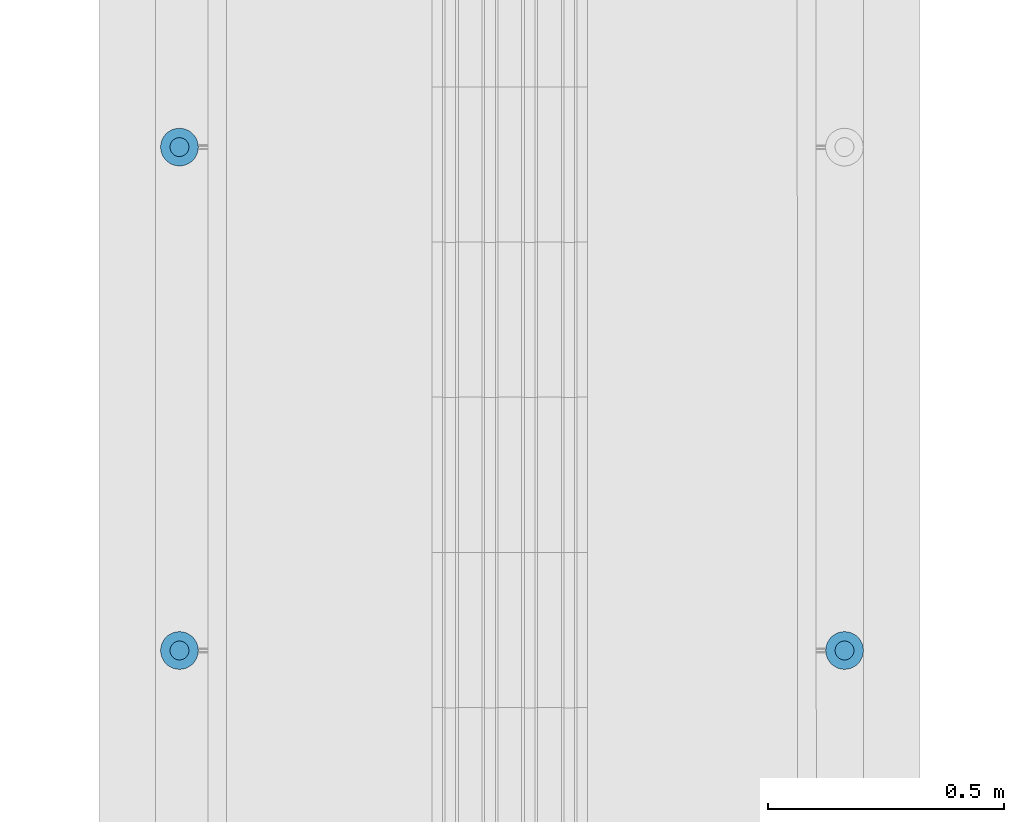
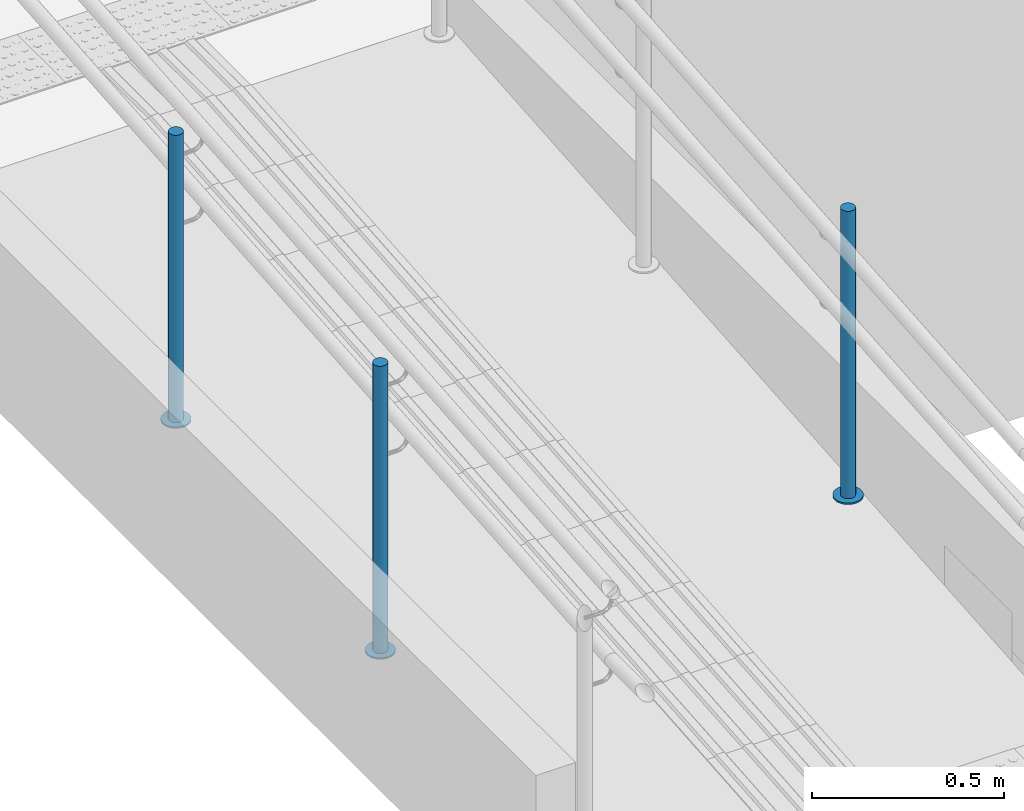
# One storey, part 102 of 237: 6 building element parts, 2 elements without a shape of their own.
"""IFC2X3 building model written with IfcOpenShell, lengths in millimetres."""

from ifc_helpers import new_model, entity, si_unit, converted_unit, derived_unit, money_unit, direction, frame, origin_with_axes, place, context, subcontext, project, spatial, faceted_brep, material, type_object, element, aggregate, save


model = new_model("IFC2X3")

# Units and contexts
model_context = context("Model", 3, precision=0.01, world=origin_with_axes(), true_north=direction((0.0, 1.0)))
body_context = subcontext(model_context, "Body", "Model", "MODEL_VIEW")
ifc_project = project(units=[si_unit("LENGTHUNIT", "METRE", prefix="MILLI"), si_unit("AREAUNIT", "SQUARE_METRE"), si_unit("VOLUMEUNIT", "CUBIC_METRE"), converted_unit("PLANEANGLEUNIT", "DEGREE", entity("IfcPlaneAngleMeasure", 0.0174532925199), si_unit("PLANEANGLEUNIT", "RADIAN"), dimensions=[0, 0, 0, 0, 0, 0, 0]), money_unit("USD"), converted_unit("TIMEUNIT", "Year", entity("IfcTimeMeasure", 31556926.0), si_unit("TIMEUNIT", "SECOND"), dimensions=[0, 0, 1, 0, 0, 0, 0]), si_unit("MASSUNIT", "GRAM", prefix="KILO"), si_unit("THERMODYNAMICTEMPERATUREUNIT", "DEGREE_CELSIUS"), si_unit("LUMINOUSINTENSITYUNIT", "LUMEN"), si_unit("ENERGYUNIT", "JOULE", prefix="MEGA"), derived_unit("THERMALCONDUCTANCEUNIT", [(si_unit("POWERUNIT", "WATT"), 1), (si_unit("LENGTHUNIT", "METRE"), -1), (si_unit("THERMODYNAMICTEMPERATUREUNIT", "KELVIN"), -1)]), derived_unit("SPECIFICHEATCAPACITYUNIT", [(si_unit("ENERGYUNIT", "JOULE"), 1), (si_unit("MASSUNIT", "GRAM", prefix="KILO"), -1), (si_unit("THERMODYNAMICTEMPERATUREUNIT", "KELVIN"), -1)]), derived_unit("MASSDENSITYUNIT", [(si_unit("MASSUNIT", "GRAM", prefix="KILO"), 1), (si_unit("VOLUMEUNIT", "CUBIC_METRE"), -1)])], contexts=[model_context])

# Site, building, storey
site_placement = place(None, origin_with_axes())
site = spatial("IfcSite", under=ifc_project, at=site_placement, Name="Local", CompositionType="ELEMENT")
building_placement = place(site_placement, origin_with_axes())
building = spatial("IfcBuilding", under=site, at=building_placement, Name="Construção", CompositionType="ELEMENT")
storey_placement = place(building_placement, origin_with_axes())
storey = spatial("IfcBuildingStorey", under=building, at=storey_placement, Name="Pavimento Térreo", CompositionType="ELEMENT", Elevation=0.0)

# Railing, building element parts
railing_type = type_object("IfcRailingType", Name="Tipo de Guarda-Corpo", PredefinedType="NOTDEFINED")
railing_1_placement = place(storey_placement, frame((83396.7842051, 16008.4211936, -5267.74663192), z_axis=(0.0, 0.0, 1.0), x_axis=(-0.999999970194, -0.00024415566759, 0.0)))
railing_1 = element("IfcRailing", 1, at=railing_1_placement, inside=storey, type_object=railing_type, Name="Guarda-Corpo - 001", PredefinedType="NOTDEFINED")
ifc_material_1 = material(Name="Aço - Inoxidável")
building_element_part_1_placement = place(railing_1_placement, origin_with_axes())
building_element_part_1 = element("IfcBuildingElementPart", 2, at=building_element_part_1_placement, material=ifc_material_1, Name="Aço - Inoxidável", context=body_context, shape_type="Brep", body=[
    faceted_brep([(-20.0499704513, 1039.80828554, 186.038666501), (-19.7452775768, 1043.2811748, 186.038666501), (-19.7452775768, 1043.2811748, 1101.0386665), (-20.0499704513, 1039.80828554, 1101.0386665), (-20.0482745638, 1046.75421244, 186.038666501), (-20.9530952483, 1036.44106663, 186.038666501), (-22.427210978, 1033.28182931, 186.038666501), (-24.4275273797, 1030.42656542, 186.038666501), (-26.893265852, 1027.9620307, 186.038666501), (-29.749506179, 1025.9631088, 186.038666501), (-32.9094629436, 1024.49053594, 186.038666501), (-36.2771224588, 1023.5890555, 186.038666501), (-39.750160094, 1023.28605851, 186.038666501), (-43.2230493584, 1023.59075138, 186.038666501), (-46.5902682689, 1024.49387618, 186.038666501), (-49.7495055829, 1025.96799191, 186.038666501), (-52.6047694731, 1027.96830831, 186.038666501), (-55.0693041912, 1030.43404679, 186.038666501), (-57.0682260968, 1033.29028711, 186.038666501), (-58.5407989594, 1036.45024388, 186.038666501), (-59.4422793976, 1039.81790339, 186.038666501), (-59.7452763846, 1043.29094103, 186.038666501), (-59.4405835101, 1046.76383029, 186.038666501), (-58.5374587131, 1050.1310492, 186.038666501), (-57.0633429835, 1053.29028652, 186.038666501), (-55.0630265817, 1056.14555041, 186.038666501), (-52.5972881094, 1058.61008512, 186.038666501), (-49.7410477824, 1060.60900703, 186.038666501), (-46.5810910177, 1062.08157989, 186.038666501), (-43.2134315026, 1062.98306033, 186.038666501), (-39.7403938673, 1063.28605732, 186.038666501), (-36.267504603, 1062.98136444, 186.038666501), (-32.9002856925, 1062.07823965, 186.038666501), (-29.7410483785, 1060.60412392, 186.038666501), (-26.8857844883, 1058.60380751, 186.038666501), (-24.4212497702, 1056.13806904, 186.038666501), (-22.4223278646, 1053.28182872, 186.038666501), (-20.949755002, 1050.12187195, 186.038666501), (-20.0482745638, 1046.75421244, 1101.0386665), (-43.2230493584, 1023.59075138, 1101.0386665), (-39.750160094, 1023.28605851, 1101.0386665), (-36.2771224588, 1023.5890555, 1101.0386665), (-32.9094629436, 1024.49053594, 1101.0386665), (-29.749506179, 1025.9631088, 1101.0386665), (-26.893265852, 1027.9620307, 1101.0386665), (-24.4275273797, 1030.42656542, 1101.0386665), (-22.427210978, 1033.28182931, 1101.0386665), (-20.9530952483, 1036.44106663, 1101.0386665), (-20.949755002, 1050.12187195, 1101.0386665), (-22.4223278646, 1053.28182872, 1101.0386665), (-24.4212497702, 1056.13806904, 1101.0386665), (-26.8857844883, 1058.60380751, 1101.0386665), (-29.7410483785, 1060.60412392, 1101.0386665), (-32.9002856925, 1062.07823965, 1101.0386665), (-36.267504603, 1062.98136444, 1101.0386665), (-39.7403938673, 1063.28605732, 1101.0386665), (-43.2134315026, 1062.98306033, 1101.0386665), (-46.5810910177, 1062.08157989, 1101.0386665), (-49.7410477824, 1060.60900703, 1101.0386665), (-52.5972881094, 1058.61008512, 1101.0386665), (-55.0630265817, 1056.14555041, 1101.0386665), (-57.0633429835, 1053.29028652, 1101.0386665), (-58.5374587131, 1050.1310492, 1101.0386665), (-59.4405835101, 1046.76383029, 1101.0386665), (-59.7452763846, 1043.29094103, 1101.0386665), (-59.4422793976, 1039.81790339, 1101.0386665), (-58.5407989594, 1036.45024388, 1101.0386665), (-57.0682260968, 1033.29028711, 1101.0386665), (-55.0693041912, 1030.43404679, 1101.0386665), (-52.6047694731, 1027.96830831, 1101.0386665), (-49.7495055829, 1025.96799191, 1101.0386665), (-46.5902682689, 1024.49387618, 1101.0386665)], [[[0, 1, 2, 3]], [[4, 1, 0, 5, 6, 7, 8, 9, 10, 11, 12, 13, 14, 15, 16, 17, 18, 19, 20, 21, 22, 23, 24, 25, 26, 27, 28, 29, 30, 31, 32, 33, 34, 35, 36, 37]], [[1, 4, 38, 2]], [[39, 40, 41, 42, 43, 44, 45, 46, 47, 3, 2, 38, 48, 49, 50, 51, 52, 53, 54, 55, 56, 57, 58, 59, 60, 61, 62, 63, 64, 65, 66, 67, 68, 69, 70, 71]], [[5, 0, 3, 47]], [[6, 5, 47, 46]], [[7, 6, 46, 45]], [[8, 7, 45, 44]], [[9, 8, 44, 43]], [[10, 9, 43, 42]], [[11, 10, 42, 41]], [[12, 11, 41, 40]], [[13, 12, 40, 39]], [[14, 13, 39, 71]], [[15, 14, 71, 70]], [[16, 15, 70, 69]], [[17, 16, 69, 68]], [[18, 17, 68, 67]], [[19, 18, 67, 66]], [[20, 19, 66, 65]], [[21, 20, 65, 64]], [[22, 21, 64, 63]], [[23, 22, 63, 62]], [[24, 23, 62, 61]], [[25, 24, 61, 60]], [[26, 25, 60, 59]], [[27, 26, 59, 58]], [[28, 27, 58, 57]], [[29, 28, 57, 56]], [[30, 29, 56, 55]], [[31, 30, 55, 54]], [[32, 31, 54, 53]], [[33, 32, 53, 52]], [[34, 33, 52, 51]], [[35, 34, 51, 50]], [[36, 35, 50, 49]], [[37, 36, 49, 48]], [[4, 37, 48, 38]]]),
])
ifc_material_2 = material(Name="Alumínio")
building_element_part_2_placement = place(railing_1_placement, origin_with_axes())
building_element_part_2 = element("IfcBuildingElementPart", 3, at=building_element_part_2_placement, material=ifc_material_2, Name="Alumínio", context=body_context, shape_type="Brep", body=[
    faceted_brep([(-39.735510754, 1083.28605672, 181.038666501), (-46.6815860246, 1082.68006275, 181.038666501), (-46.6815860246, 1082.68006275, 186.038666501), (-39.735510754, 1083.28605672, 186.038666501), (-32.7897322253, 1082.67667097, 181.038666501), (-26.0552944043, 1080.87042138, 181.038666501), (-19.7368197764, 1077.92218992, 181.038666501), (-14.0262919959, 1073.92155712, 181.038666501), (-9.09722255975, 1068.99008017, 181.038666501), (-5.09937874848, 1063.27759952, 181.038666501), (-2.15423302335, 1056.95768599, 181.038666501), (-0.351272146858, 1050.22236696, 181.038666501), (0.254721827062, 1043.27629169, 181.038666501), (-0.354663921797, 1036.33051316, 181.038666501), (-2.16091351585, 1029.59607534, 181.038666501), (-5.10914497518, 1023.27760071, 181.038666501), (-9.10977777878, 1017.56707293, 181.038666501), (-14.0412547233, 1012.63800349, 181.038666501), (-19.7537353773, 1008.64015968, 181.038666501), (-26.0736489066, 1005.69501396, 181.038666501), (-32.8089679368, 1003.89205308, 181.038666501), (-39.7550432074, 1003.28605911, 181.038666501), (-46.7008217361, 1003.89544485, 181.038666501), (-53.4352595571, 1005.70169445, 181.038666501), (-59.753734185, 1008.64992591, 181.038666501), (-65.4642619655, 1012.65055871, 181.038666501), (-70.3933314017, 1017.58203566, 181.038666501), (-74.3911752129, 1023.29451631, 181.038666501), (-77.336320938, 1029.61442984, 181.038666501), (-79.1392818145, 1036.34974887, 181.038666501), (-79.7452757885, 1043.29582414, 181.038666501), (-79.1358900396, 1050.24160267, 181.038666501), (-77.3296404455, 1056.97604049, 181.038666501), (-74.3814089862, 1063.29451512, 181.038666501), (-70.3807761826, 1069.0050429, 181.038666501), (-65.4492992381, 1073.93411233, 181.038666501), (-59.7368185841, 1077.93195615, 181.038666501), (-53.4169050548, 1080.87710187, 181.038666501), (-53.4169050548, 1080.87710187, 186.038666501), (-59.7368185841, 1077.93195615, 186.038666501), (-65.4492992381, 1073.93411233, 186.038666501), (-70.3807761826, 1069.0050429, 186.038666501), (-74.3814089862, 1063.29451512, 186.038666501), (-77.3296404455, 1056.97604049, 186.038666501), (-79.1358900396, 1050.24160267, 186.038666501), (-79.7452757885, 1043.29582414, 186.038666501), (-79.1392818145, 1036.34974887, 186.038666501), (-77.336320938, 1029.61442984, 186.038666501), (-74.3911752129, 1023.29451631, 186.038666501), (-70.3933314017, 1017.58203566, 186.038666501), (-65.4642619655, 1012.65055871, 186.038666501), (-59.753734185, 1008.64992591, 186.038666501), (-53.4352595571, 1005.70169445, 186.038666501), (-46.7008217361, 1003.89544485, 186.038666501), (-39.7550432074, 1003.28605911, 186.038666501), (-32.8089679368, 1003.89205308, 186.038666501), (-26.0736489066, 1005.69501396, 186.038666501), (-19.7537353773, 1008.64015968, 186.038666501), (-14.0412547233, 1012.63800349, 186.038666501), (-9.10977777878, 1017.56707293, 186.038666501), (-5.10914497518, 1023.27760071, 186.038666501), (-2.16091351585, 1029.59607534, 186.038666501), (-0.354663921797, 1036.33051316, 186.038666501), (0.254721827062, 1043.27629169, 186.038666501), (-0.351272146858, 1050.22236696, 186.038666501), (-2.15423302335, 1056.95768599, 186.038666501), (-5.09937874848, 1063.27759952, 186.038666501), (-9.09722255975, 1068.99008017, 186.038666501), (-14.0262919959, 1073.92155712, 186.038666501), (-19.7368197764, 1077.92218992, 186.038666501), (-26.0552944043, 1080.87042138, 186.038666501), (-32.7897322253, 1082.67667097, 186.038666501)], [[[0, 1, 2, 3]], [[0, 4, 5, 6, 7, 8, 9, 10, 11, 12, 13, 14, 15, 16, 17, 18, 19, 20, 21, 22, 23, 24, 25, 26, 27, 28, 29, 30, 31, 32, 33, 34, 35, 36, 37, 1]], [[1, 37, 38, 2]], [[3, 2, 38, 39, 40, 41, 42, 43, 44, 45, 46, 47, 48, 49, 50, 51, 52, 53, 54, 55, 56, 57, 58, 59, 60, 61, 62, 63, 64, 65, 66, 67, 68, 69, 70, 71]], [[4, 0, 3, 71]], [[5, 4, 71, 70]], [[6, 5, 70, 69]], [[7, 6, 69, 68]], [[8, 7, 68, 67]], [[9, 8, 67, 66]], [[10, 9, 66, 65]], [[11, 10, 65, 64]], [[12, 11, 64, 63]], [[13, 12, 63, 62]], [[14, 13, 62, 61]], [[15, 14, 61, 60]], [[16, 15, 60, 59]], [[17, 16, 59, 58]], [[18, 17, 58, 57]], [[19, 18, 57, 56]], [[20, 19, 56, 55]], [[21, 20, 55, 54]], [[22, 21, 54, 53]], [[23, 22, 53, 52]], [[24, 23, 52, 51]], [[25, 24, 51, 50]], [[26, 25, 50, 49]], [[27, 26, 49, 48]], [[28, 27, 48, 47]], [[29, 28, 47, 46]], [[30, 29, 46, 45]], [[31, 30, 45, 44]], [[32, 31, 44, 43]], [[33, 32, 43, 42]], [[34, 33, 42, 41]], [[35, 34, 41, 40]], [[36, 35, 40, 39]], [[37, 36, 39, 38]]]),
])
building_element_part_3_placement = place(railing_1_placement, origin_with_axes())
building_element_part_3 = element("IfcBuildingElementPart", 4, at=building_element_part_3_placement, material=ifc_material_1, Name="Aço - Inoxidável", context=body_context, shape_type="Brep", body=[
    faceted_brep([(-19.7895377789, 2106.47475746, 97.1853334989), (-19.4848449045, 2109.94764673, 97.1853334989), (-19.4848449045, 2109.94764673, 1012.1853335), (-19.7895377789, 2106.47475746, 1012.1853335), (-19.7878418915, 2113.42068436, 97.1853334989), (-20.692662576, 2103.10753855, 97.1853334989), (-22.1667783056, 2099.94830124, 97.1853334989), (-24.1670947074, 2097.09303735, 97.1853334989), (-26.6328331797, 2094.62850263, 97.1853334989), (-29.4890735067, 2092.62958073, 97.1853334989), (-32.6490302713, 2091.15700786, 97.1853334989), (-36.0166897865, 2090.25552743, 97.1853334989), (-39.4897274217, 2089.95253044, 97.1853334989), (-42.9626166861, 2090.25722331, 97.1853334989), (-46.3298355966, 2091.16034811, 97.1853334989), (-49.4890729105, 2092.63446384, 97.1853334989), (-52.3443368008, 2094.63478024, 97.1853334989), (-54.8088715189, 2097.10051871, 97.1853334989), (-56.8077934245, 2099.95675904, 97.1853334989), (-58.2803662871, 2103.11671581, 97.1853334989), (-59.1818467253, 2106.48437532, 97.1853334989), (-59.4848437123, 2109.95741296, 97.1853334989), (-59.1801508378, 2113.43030222, 97.1853334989), (-58.2770260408, 2116.79752113, 97.1853334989), (-56.8029103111, 2119.95675844, 97.1853334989), (-54.8025939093, 2122.81202234, 97.1853334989), (-52.3368554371, 2125.27655705, 97.1853334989), (-49.4806151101, 2127.27547896, 97.1853334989), (-46.3206583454, 2128.74805182, 97.1853334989), (-42.9529988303, 2129.64953226, 97.1853334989), (-39.479961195, 2129.95252925, 97.1853334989), (-36.0070719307, 2129.64783637, 97.1853334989), (-32.6398530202, 2128.74471158, 97.1853334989), (-29.4806157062, 2127.27059585, 97.1853334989), (-26.625351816, 2125.27027944, 97.1853334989), (-24.1608170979, 2122.80454097, 97.1853334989), (-22.1618951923, 2119.94830064, 97.1853334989), (-20.6893223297, 2116.78834388, 97.1853334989), (-19.7878418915, 2113.42068436, 1012.1853335), (-42.9626166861, 2090.25722331, 1012.1853335), (-39.4897274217, 2089.95253044, 1012.1853335), (-36.0166897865, 2090.25552743, 1012.1853335), (-32.6490302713, 2091.15700786, 1012.1853335), (-29.4890735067, 2092.62958073, 1012.1853335), (-26.6328331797, 2094.62850263, 1012.1853335), (-24.1670947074, 2097.09303735, 1012.1853335), (-22.1667783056, 2099.94830124, 1012.1853335), (-20.692662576, 2103.10753855, 1012.1853335), (-20.6893223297, 2116.78834388, 1012.1853335), (-22.1618951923, 2119.94830064, 1012.1853335), (-24.1608170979, 2122.80454097, 1012.1853335), (-26.625351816, 2125.27027944, 1012.1853335), (-29.4806157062, 2127.27059585, 1012.1853335), (-32.6398530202, 2128.74471158, 1012.1853335), (-36.0070719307, 2129.64783637, 1012.1853335), (-39.479961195, 2129.95252925, 1012.1853335), (-42.9529988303, 2129.64953226, 1012.1853335), (-46.3206583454, 2128.74805182, 1012.1853335), (-49.4806151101, 2127.27547896, 1012.1853335), (-52.3368554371, 2125.27655705, 1012.1853335), (-54.8025939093, 2122.81202234, 1012.1853335), (-56.8029103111, 2119.95675844, 1012.1853335), (-58.2770260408, 2116.79752113, 1012.1853335), (-59.1801508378, 2113.43030222, 1012.1853335), (-59.4848437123, 2109.95741296, 1012.1853335), (-59.1818467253, 2106.48437532, 1012.1853335), (-58.2803662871, 2103.11671581, 1012.1853335), (-56.8077934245, 2099.95675904, 1012.1853335), (-54.8088715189, 2097.10051871, 1012.1853335), (-52.3443368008, 2094.63478024, 1012.1853335), (-49.4890729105, 2092.63446384, 1012.1853335), (-46.3298355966, 2091.16034811, 1012.1853335)], [[[0, 1, 2, 3]], [[4, 1, 0, 5, 6, 7, 8, 9, 10, 11, 12, 13, 14, 15, 16, 17, 18, 19, 20, 21, 22, 23, 24, 25, 26, 27, 28, 29, 30, 31, 32, 33, 34, 35, 36, 37]], [[1, 4, 38, 2]], [[39, 40, 41, 42, 43, 44, 45, 46, 47, 3, 2, 38, 48, 49, 50, 51, 52, 53, 54, 55, 56, 57, 58, 59, 60, 61, 62, 63, 64, 65, 66, 67, 68, 69, 70, 71]], [[5, 0, 3, 47]], [[6, 5, 47, 46]], [[7, 6, 46, 45]], [[8, 7, 45, 44]], [[9, 8, 44, 43]], [[10, 9, 43, 42]], [[11, 10, 42, 41]], [[12, 11, 41, 40]], [[13, 12, 40, 39]], [[14, 13, 39, 71]], [[15, 14, 71, 70]], [[16, 15, 70, 69]], [[17, 16, 69, 68]], [[18, 17, 68, 67]], [[19, 18, 67, 66]], [[20, 19, 66, 65]], [[21, 20, 65, 64]], [[22, 21, 64, 63]], [[23, 22, 63, 62]], [[24, 23, 62, 61]], [[25, 24, 61, 60]], [[26, 25, 60, 59]], [[27, 26, 59, 58]], [[28, 27, 58, 57]], [[29, 28, 57, 56]], [[30, 29, 56, 55]], [[31, 30, 55, 54]], [[32, 31, 54, 53]], [[33, 32, 53, 52]], [[34, 33, 52, 51]], [[35, 34, 51, 50]], [[36, 35, 50, 49]], [[37, 36, 49, 48]], [[4, 37, 48, 38]]]),
])
building_element_part_4_placement = place(railing_1_placement, origin_with_axes())
building_element_part_4 = element("IfcBuildingElementPart", 5, at=building_element_part_4_placement, material=ifc_material_2, Name="Alumínio", context=body_context, shape_type="Brep", body=[
    faceted_brep([(-39.4750780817, 2149.95252865, 92.1853334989), (-46.4211533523, 2149.34653468, 92.1853334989), (-46.4211533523, 2149.34653468, 97.1853334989), (-39.4750780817, 2149.95252865, 97.1853334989), (-32.529299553, 2149.3431429, 92.1853334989), (-25.794861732, 2147.53689331, 92.1853334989), (-19.4763871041, 2144.58866185, 92.1853334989), (-13.7658593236, 2140.58802904, 92.1853334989), (-8.83678988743, 2135.6565521, 92.1853334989), (-4.83894607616, 2129.94407145, 92.1853334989), (-1.89380035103, 2123.62415792, 92.1853334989), (-0.0908394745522, 2116.88883889, 92.1853334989), (0.515154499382, 2109.94276362, 92.1853334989), (-0.0942312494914, 2102.99698509, 92.1853334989), (-1.90048084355, 2096.26254727, 92.1853334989), (-4.84871230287, 2089.94407264, 92.1853334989), (-8.84934510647, 2084.23354486, 92.1853334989), (-13.780822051, 2079.30447542, 92.1853334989), (-19.4933027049, 2075.30663161, 92.1853334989), (-25.8132162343, 2072.36148589, 92.1853334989), (-32.5485352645, 2070.55852501, 92.1853334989), (-39.4946105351, 2069.95253103, 92.1853334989), (-46.4403890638, 2070.56191678, 92.1853334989), (-53.1748268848, 2072.36816638, 92.1853334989), (-59.4933015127, 2075.31639784, 92.1853334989), (-65.2038292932, 2079.31703064, 92.1853334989), (-70.1328987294, 2084.24850759, 92.1853334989), (-74.1307425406, 2089.96098824, 92.1853334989), (-77.0758882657, 2096.28090177, 92.1853334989), (-78.8788491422, 2103.0162208, 92.1853334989), (-79.4848431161, 2109.96229607, 92.1853334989), (-78.8754573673, 2116.9080746, 92.1853334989), (-77.0692077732, 2123.64251242, 92.1853334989), (-74.1209763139, 2129.96098705, 92.1853334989), (-70.1203435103, 2135.67151483, 92.1853334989), (-65.1888665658, 2140.60058426, 92.1853334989), (-59.4763859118, 2144.59842807, 92.1853334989), (-53.1564723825, 2147.5435738, 92.1853334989), (-53.1564723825, 2147.5435738, 97.1853334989), (-59.4763859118, 2144.59842807, 97.1853334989), (-65.1888665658, 2140.60058426, 97.1853334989), (-70.1203435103, 2135.67151483, 97.1853334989), (-74.1209763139, 2129.96098705, 97.1853334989), (-77.0692077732, 2123.64251242, 97.1853334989), (-78.8754573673, 2116.9080746, 97.1853334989), (-79.4848431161, 2109.96229607, 97.1853334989), (-78.8788491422, 2103.0162208, 97.1853334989), (-77.0758882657, 2096.28090177, 97.1853334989), (-74.1307425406, 2089.96098824, 97.1853334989), (-70.1328987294, 2084.24850759, 97.1853334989), (-65.2038292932, 2079.31703064, 97.1853334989), (-59.4933015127, 2075.31639784, 97.1853334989), (-53.1748268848, 2072.36816638, 97.1853334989), (-46.4403890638, 2070.56191678, 97.1853334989), (-39.4946105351, 2069.95253103, 97.1853334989), (-32.5485352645, 2070.55852501, 97.1853334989), (-25.8132162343, 2072.36148589, 97.1853334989), (-19.4933027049, 2075.30663161, 97.1853334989), (-13.780822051, 2079.30447542, 97.1853334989), (-8.84934510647, 2084.23354486, 97.1853334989), (-4.84871230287, 2089.94407264, 97.1853334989), (-1.90048084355, 2096.26254727, 97.1853334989), (-0.0942312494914, 2102.99698509, 97.1853334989), (0.515154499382, 2109.94276362, 97.1853334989), (-0.0908394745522, 2116.88883889, 97.1853334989), (-1.89380035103, 2123.62415792, 97.1853334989), (-4.83894607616, 2129.94407145, 97.1853334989), (-8.83678988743, 2135.6565521, 97.1853334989), (-13.7658593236, 2140.58802904, 97.1853334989), (-19.4763871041, 2144.58866185, 97.1853334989), (-25.794861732, 2147.53689331, 97.1853334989), (-32.529299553, 2149.3431429, 97.1853334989)], [[[0, 1, 2, 3]], [[0, 4, 5, 6, 7, 8, 9, 10, 11, 12, 13, 14, 15, 16, 17, 18, 19, 20, 21, 22, 23, 24, 25, 26, 27, 28, 29, 30, 31, 32, 33, 34, 35, 36, 37, 1]], [[1, 37, 38, 2]], [[3, 2, 38, 39, 40, 41, 42, 43, 44, 45, 46, 47, 48, 49, 50, 51, 52, 53, 54, 55, 56, 57, 58, 59, 60, 61, 62, 63, 64, 65, 66, 67, 68, 69, 70, 71]], [[4, 0, 3, 71]], [[5, 4, 71, 70]], [[6, 5, 70, 69]], [[7, 6, 69, 68]], [[8, 7, 68, 67]], [[9, 8, 67, 66]], [[10, 9, 66, 65]], [[11, 10, 65, 64]], [[12, 11, 64, 63]], [[13, 12, 63, 62]], [[14, 13, 62, 61]], [[15, 14, 61, 60]], [[16, 15, 60, 59]], [[17, 16, 59, 58]], [[18, 17, 58, 57]], [[19, 18, 57, 56]], [[20, 19, 56, 55]], [[21, 20, 55, 54]], [[22, 21, 54, 53]], [[23, 22, 53, 52]], [[24, 23, 52, 51]], [[25, 24, 51, 50]], [[26, 25, 50, 49]], [[27, 26, 49, 48]], [[28, 27, 48, 47]], [[29, 28, 47, 46]], [[30, 29, 46, 45]], [[31, 30, 45, 44]], [[32, 31, 44, 43]], [[33, 32, 43, 42]], [[34, 33, 42, 41]], [[35, 34, 41, 40]], [[36, 35, 40, 39]], [[37, 36, 39, 38]]]),
])
aggregate(railing_1, [building_element_part_1, building_element_part_2, building_element_part_3, building_element_part_4])

railing_2_placement = place(storey_placement, frame((84886.384695, 12791.8118634, -5267.74663192), z_axis=(0.0, 0.0, 1.0), x_axis=(1.0, 0.0, 0.0)))
railing_2 = element("IfcRailing", 6, at=railing_2_placement, inside=storey, type_object=railing_type, Name="Guarda-Corpo - 001", PredefinedType="NOTDEFINED")
building_element_part_5_placement = place(railing_2_placement, origin_with_axes())
building_element_part_5 = element("IfcBuildingElementPart", 7, at=building_element_part_5_placement, material=ifc_material_1, Name="Aço - Inoxidável", context=body_context, shape_type="Brep", body=[
    faceted_brep([(-20.5679903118, 1103.18867838, 97.185333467), (-20.2649769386, 1106.66171459, 97.185333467), (-20.2649769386, 1106.66171459, 1012.18533347), (-20.5679903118, 1103.18867838, 1012.18533347), (-20.5696534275, 1110.13460529, 97.185333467), (-21.4694866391, 1099.82102312, 97.185333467), (-22.9420744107, 1096.6610733, 97.185333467), (-24.9410097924, 1093.80484241, 97.185333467), (-27.4055561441, 1091.33911556, 97.185333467), (-30.2608294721, 1089.33881263, 97.185333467), (-33.4200737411, 1087.86471181, 97.185333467), (-36.7872969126, 1086.9616029, 97.185333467), (-40.2601876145, 1086.65692641, 97.185333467), (-43.7332238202, 1086.95993978, 97.185333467), (-47.1008790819, 1087.86143611, 97.185333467), (-50.2608288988, 1089.33402388, 97.185333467), (-53.1170597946, 1091.33295927, 97.185333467), (-55.5827866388, 1093.79750562, 97.185333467), (-57.5830895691, 1096.65277894, 97.185333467), (-59.057190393, 1099.81202321, 97.185333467), (-59.9602993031, 1103.17924639, 97.185333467), (-60.264975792, 1106.65213709, 97.185333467), (-59.9619624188, 1110.12517329, 97.185333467), (-59.0604660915, 1113.49282855, 97.185333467), (-57.5878783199, 1116.65277837, 97.185333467), (-55.5889429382, 1119.50900927, 97.185333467), (-53.1243965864, 1121.97473611, 97.185333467), (-50.2691232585, 1123.97503904, 97.185333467), (-47.1098789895, 1125.44913987, 97.185333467), (-43.742655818, 1126.35224878, 97.185333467), (-40.2697651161, 1126.65692526, 97.185333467), (-36.7967289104, 1126.35391189, 97.185333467), (-33.4290736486, 1125.45241556, 97.185333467), (-30.2691238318, 1123.97982779, 97.185333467), (-27.412892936, 1121.98089241, 97.185333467), (-24.9471660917, 1119.51634606, 97.185333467), (-22.9468631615, 1116.66107273, 97.185333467), (-21.4727623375, 1113.50182846, 97.185333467), (-20.5696534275, 1110.13460529, 1012.18533347), (-43.7332238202, 1086.95993978, 1012.18533347), (-40.2601876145, 1086.65692641, 1012.18533347), (-36.7872969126, 1086.9616029, 1012.18533347), (-33.4200737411, 1087.86471181, 1012.18533347), (-30.2608294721, 1089.33881263, 1012.18533347), (-27.4055561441, 1091.33911556, 1012.18533347), (-24.9410097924, 1093.80484241, 1012.18533347), (-22.9420744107, 1096.6610733, 1012.18533347), (-21.4694866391, 1099.82102312, 1012.18533347), (-21.4727623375, 1113.50182846, 1012.18533347), (-22.9468631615, 1116.66107273, 1012.18533347), (-24.9471660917, 1119.51634606, 1012.18533347), (-27.412892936, 1121.98089241, 1012.18533347), (-30.2691238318, 1123.97982779, 1012.18533347), (-33.4290736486, 1125.45241556, 1012.18533347), (-36.7967289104, 1126.35391189, 1012.18533347), (-40.2697651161, 1126.65692526, 1012.18533347), (-43.742655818, 1126.35224878, 1012.18533347), (-47.1098789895, 1125.44913987, 1012.18533347), (-50.2691232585, 1123.97503904, 1012.18533347), (-53.1243965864, 1121.97473611, 1012.18533347), (-55.5889429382, 1119.50900927, 1012.18533347), (-57.5878783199, 1116.65277837, 1012.18533347), (-59.0604660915, 1113.49282855, 1012.18533347), (-59.9619624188, 1110.12517329, 1012.18533347), (-60.264975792, 1106.65213709, 1012.18533347), (-59.9602993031, 1103.17924639, 1012.18533347), (-59.057190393, 1099.81202321, 1012.18533347), (-57.5830895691, 1096.65277894, 1012.18533347), (-55.5827866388, 1093.79750562, 1012.18533347), (-53.1170597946, 1091.33295927, 1012.18533347), (-50.2608288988, 1089.33402388, 1012.18533347), (-47.1008790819, 1087.86143611, 1012.18533347)], [[[0, 1, 2, 3]], [[4, 1, 0, 5, 6, 7, 8, 9, 10, 11, 12, 13, 14, 15, 16, 17, 18, 19, 20, 21, 22, 23, 24, 25, 26, 27, 28, 29, 30, 31, 32, 33, 34, 35, 36, 37]], [[1, 4, 38, 2]], [[39, 40, 41, 42, 43, 44, 45, 46, 47, 3, 2, 38, 48, 49, 50, 51, 52, 53, 54, 55, 56, 57, 58, 59, 60, 61, 62, 63, 64, 65, 66, 67, 68, 69, 70, 71]], [[5, 0, 3, 47]], [[6, 5, 47, 46]], [[7, 6, 46, 45]], [[8, 7, 45, 44]], [[9, 8, 44, 43]], [[10, 9, 43, 42]], [[11, 10, 42, 41]], [[12, 11, 41, 40]], [[13, 12, 40, 39]], [[14, 13, 39, 71]], [[15, 14, 71, 70]], [[16, 15, 70, 69]], [[17, 16, 69, 68]], [[18, 17, 68, 67]], [[19, 18, 67, 66]], [[20, 19, 66, 65]], [[21, 20, 65, 64]], [[22, 21, 64, 63]], [[23, 22, 63, 62]], [[24, 23, 62, 61]], [[25, 24, 61, 60]], [[26, 25, 60, 59]], [[27, 26, 59, 58]], [[28, 27, 58, 57]], [[29, 28, 57, 56]], [[30, 29, 56, 55]], [[31, 30, 55, 54]], [[32, 31, 54, 53]], [[33, 32, 53, 52]], [[34, 33, 52, 51]], [[35, 34, 51, 50]], [[36, 35, 50, 49]], [[37, 36, 49, 48]], [[4, 37, 48, 38]]]),
])
building_element_part_6_placement = place(railing_2_placement, origin_with_axes())
building_element_part_6 = element("IfcBuildingElementPart", 8, at=building_element_part_6_placement, material=ifc_material_2, Name="Alumínio", context=body_context, shape_type="Brep", body=[
    faceted_brep([(-40.2745538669, 1146.65692469, 92.185333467), (-47.2203352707, 1146.04757171, 92.185333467), (-47.2203352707, 1146.04757171, 97.185333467), (-40.2745538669, 1146.65692469, 97.185333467), (-33.3284814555, 1146.05089795, 92.185333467), (-26.593170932, 1144.24790529, 92.185333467), (-20.2732712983, 1141.30272975, 92.185333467), (-14.5608095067, 1137.30485898, 92.185333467), (-9.62935581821, 1132.37576628, 92.185333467), (-5.62874995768, 1126.66521962, 92.185333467), (-2.68054830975, 1120.34673109, 92.185333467), (-0.874330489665, 1113.61228474, 92.185333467), (-0.26497751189, 1106.66650334, 92.185333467), (-0.871004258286, 1099.72043093, 92.185333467), (-2.67399691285, 1092.9851204, 92.185333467), (-5.61917245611, 1086.66522077, 92.185333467), (-9.61704321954, 1080.95275898, 92.185333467), (-14.546135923, 1076.02130529, 92.185333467), (-20.2566825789, 1072.02069943, 92.185333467), (-26.5751711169, 1069.07249778, 92.185333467), (-33.3096174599, 1067.26627996, 92.185333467), (-40.2553988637, 1066.65692698, 92.185333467), (-47.201471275, 1067.26295373, 92.185333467), (-53.9367817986, 1069.06594639, 92.185333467), (-60.2566814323, 1072.01112193, 92.185333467), (-65.9691432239, 1076.00899269, 92.185333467), (-70.9005969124, 1080.9380854, 92.185333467), (-74.9012027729, 1086.64863205, 92.185333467), (-77.8494044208, 1092.96712059, 92.185333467), (-79.6556222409, 1099.70156693, 92.185333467), (-80.2649752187, 1106.64734834, 92.185333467), (-79.6589484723, 1113.59342075, 92.185333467), (-77.8559558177, 1120.32873127, 92.185333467), (-74.9107802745, 1126.64863091, 92.185333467), (-70.912909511, 1132.3610927, 92.185333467), (-65.9838168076, 1137.29254639, 92.185333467), (-60.2732701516, 1141.29315225, 92.185333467), (-53.9547816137, 1144.24135389, 92.185333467), (-53.9547816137, 1144.24135389, 97.185333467), (-60.2732701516, 1141.29315225, 97.185333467), (-65.9838168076, 1137.29254639, 97.185333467), (-70.912909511, 1132.3610927, 97.185333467), (-74.9107802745, 1126.64863091, 97.185333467), (-77.8559558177, 1120.32873127, 97.185333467), (-79.6589484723, 1113.59342075, 97.185333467), (-80.2649752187, 1106.64734834, 97.185333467), (-79.6556222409, 1099.70156693, 97.185333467), (-77.8494044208, 1092.96712059, 97.185333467), (-74.9012027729, 1086.64863205, 97.185333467), (-70.9005969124, 1080.9380854, 97.185333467), (-65.9691432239, 1076.00899269, 97.185333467), (-60.2566814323, 1072.01112193, 97.185333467), (-53.9367817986, 1069.06594639, 97.185333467), (-47.201471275, 1067.26295373, 97.185333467), (-40.2553988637, 1066.65692698, 97.185333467), (-33.3096174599, 1067.26627996, 97.185333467), (-26.5751711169, 1069.07249778, 97.185333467), (-20.2566825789, 1072.02069943, 97.185333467), (-14.546135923, 1076.02130529, 97.185333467), (-9.61704321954, 1080.95275898, 97.185333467), (-5.61917245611, 1086.66522077, 97.185333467), (-2.67399691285, 1092.9851204, 97.185333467), (-0.871004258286, 1099.72043093, 97.185333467), (-0.26497751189, 1106.66650334, 97.185333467), (-0.874330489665, 1113.61228474, 97.185333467), (-2.68054830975, 1120.34673109, 97.185333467), (-5.62874995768, 1126.66521962, 97.185333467), (-9.62935581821, 1132.37576628, 97.185333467), (-14.5608095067, 1137.30485898, 97.185333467), (-20.2732712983, 1141.30272975, 97.185333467), (-26.593170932, 1144.24790529, 97.185333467), (-33.3284814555, 1146.05089795, 97.185333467)], [[[0, 1, 2, 3]], [[0, 4, 5, 6, 7, 8, 9, 10, 11, 12, 13, 14, 15, 16, 17, 18, 19, 20, 21, 22, 23, 24, 25, 26, 27, 28, 29, 30, 31, 32, 33, 34, 35, 36, 37, 1]], [[1, 37, 38, 2]], [[3, 2, 38, 39, 40, 41, 42, 43, 44, 45, 46, 47, 48, 49, 50, 51, 52, 53, 54, 55, 56, 57, 58, 59, 60, 61, 62, 63, 64, 65, 66, 67, 68, 69, 70, 71]], [[4, 0, 3, 71]], [[5, 4, 71, 70]], [[6, 5, 70, 69]], [[7, 6, 69, 68]], [[8, 7, 68, 67]], [[9, 8, 67, 66]], [[10, 9, 66, 65]], [[11, 10, 65, 64]], [[12, 11, 64, 63]], [[13, 12, 63, 62]], [[14, 13, 62, 61]], [[15, 14, 61, 60]], [[16, 15, 60, 59]], [[17, 16, 59, 58]], [[18, 17, 58, 57]], [[19, 18, 57, 56]], [[20, 19, 56, 55]], [[21, 20, 55, 54]], [[22, 21, 54, 53]], [[23, 22, 53, 52]], [[24, 23, 52, 51]], [[25, 24, 51, 50]], [[26, 25, 50, 49]], [[27, 26, 49, 48]], [[28, 27, 48, 47]], [[29, 28, 47, 46]], [[30, 29, 46, 45]], [[31, 30, 45, 44]], [[32, 31, 44, 43]], [[33, 32, 43, 42]], [[34, 33, 42, 41]], [[35, 34, 41, 40]], [[36, 35, 40, 39]], [[37, 36, 39, 38]]]),
])
aggregate(railing_2, [building_element_part_5, building_element_part_6])

save(model, "model.ifc")
